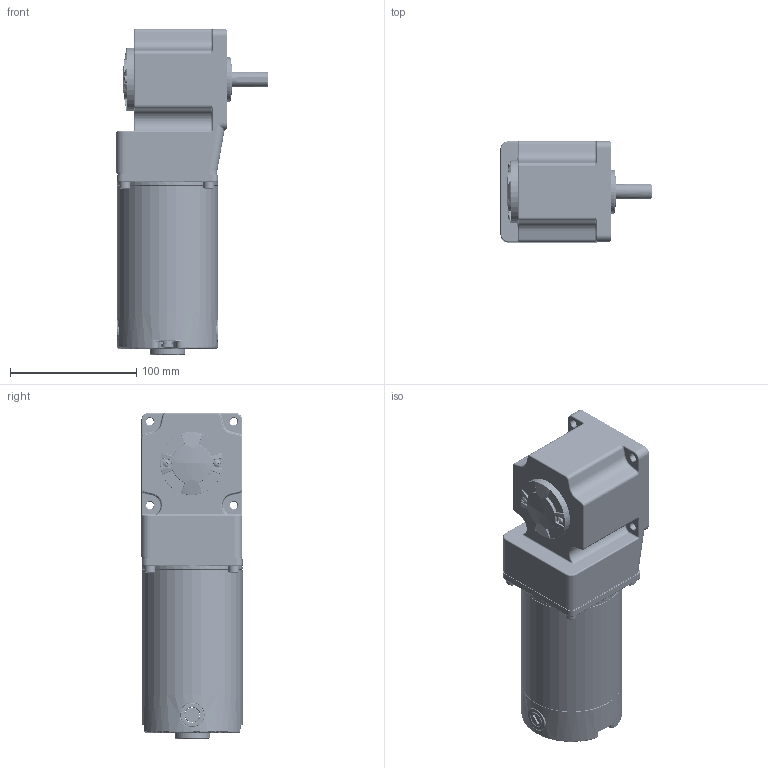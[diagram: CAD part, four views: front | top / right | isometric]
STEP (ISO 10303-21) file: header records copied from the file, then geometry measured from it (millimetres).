
FILE_DESCRIPTION (( 'STEP AP214' ), '1' );
FILE_NAME ('80-99»ú¿Ç-RT.STEP', '2021-07-23T07:53:05', ( '' ), ( '' ), 'SwSTEP 2.0', 'SolidWorks 2021', '' );
FILE_SCHEMA (( 'AUTOMOTIVE_DESIGN' ));
Length unit declared in the file: millimetre
Products named in the file (9): JIKEI-80_1_1_1_1_1; HOUGAI-80-1_1_1_1; PENGDIAN_1_1_1; 80-25w_1_1_1_1; 80-99儂褲-RT; LUDING_1_1_1; TANDIAN_1_1; QIANGAI-80_1_1_1_1; 4RRRRRT
Assembly tree (11 placements, depth 3):
  80-99儂褲-RT
    80-25w_1_1_1_1
      QIANGAI-80_1_1_1_1
      HOUGAI-80-1_1_1_1
      JIKEI-80_1_1_1_1_1
    4RRRRRT
    TANDIAN_1_1  x2
    LUDING_1_1_1  x2
    PENGDIAN_1_1_1  x2
Bounding box: 120 x 80.35 x 258.5 mm (x, y, z)
Volume: 538618.9 mm3; surface area: 226086.3 mm2
Topology: 28 solids, 28 shells, 4044 faces, 9421 edges, 5408 vertices
Faces by surface type: cone 1510, cylinder 1239, plane 530, torus 436, bspline 218, sphere 111
Entity records: 149975 total; most frequent: CARTESIAN_POINT 61468, DIRECTION 18969, ORIENTED_EDGE 18226, EDGE_CURVE 9113, AXIS2_PLACEMENT_3D 7802, VERTEX_POINT 5269, EDGE_LOOP 4116, CIRCLE 4027
